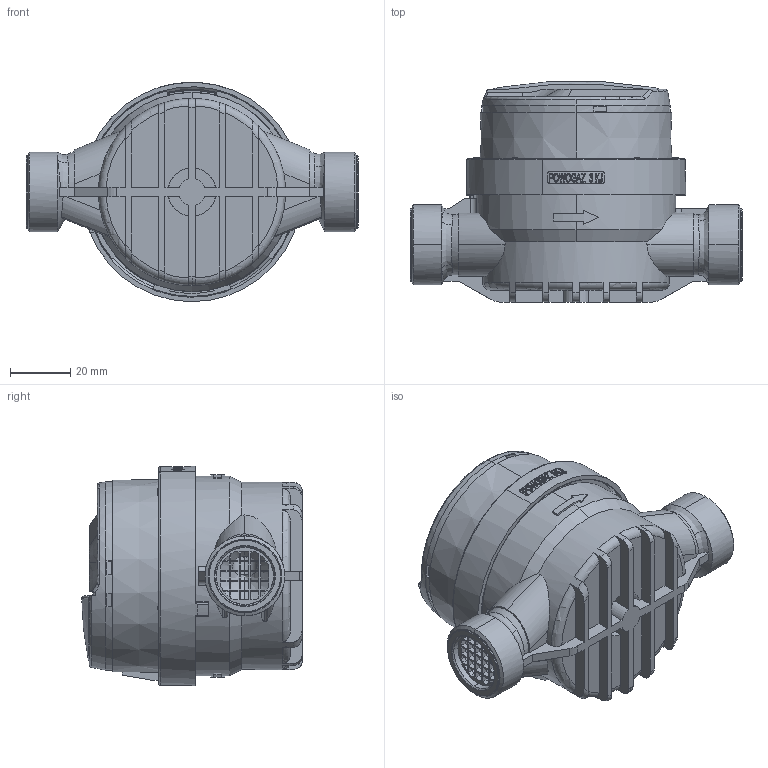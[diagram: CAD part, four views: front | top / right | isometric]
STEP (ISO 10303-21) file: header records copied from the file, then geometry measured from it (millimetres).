
FILE_DESCRIPTION (( 'STEP AP214' ), '1' );
FILE_NAME ('JS1,6-03.STEP', '2025-06-06T08:22:19', ( '' ), ( '' ), 'SwSTEP 2.0', 'SolidWorks 2019', '' );
FILE_SCHEMA (( 'AUTOMOTIVE_DESIGN' ));
Length unit declared in the file: millimetre
Products named in the file (1): JS1,6-03
Bounding box: 110 x 73.05 x 72.68 mm (x, y, z)
Volume: 214707.6 mm3; surface area: 52288 mm2
Topology: 4 solids, 6 shells, 943 faces, 2631 edges, 1727 vertices
Faces by surface type: plane 514, cylinder 217, cone 93, bspline 76, torus 41, sphere 2
Entity records: 45171 total; most frequent: CARTESIAN_POINT 11220, ORIENTED_EDGE 5252, DIRECTION 4490, EDGE_CURVE 2626, VERTEX_POINT 1727, AXIS2_PLACEMENT_3D 1531, VECTOR 1428, LINE 1428
